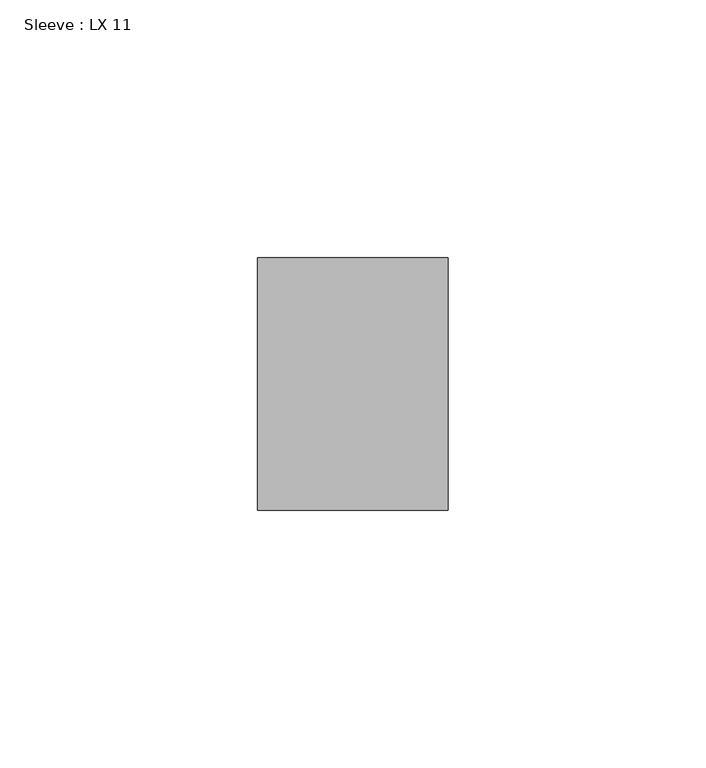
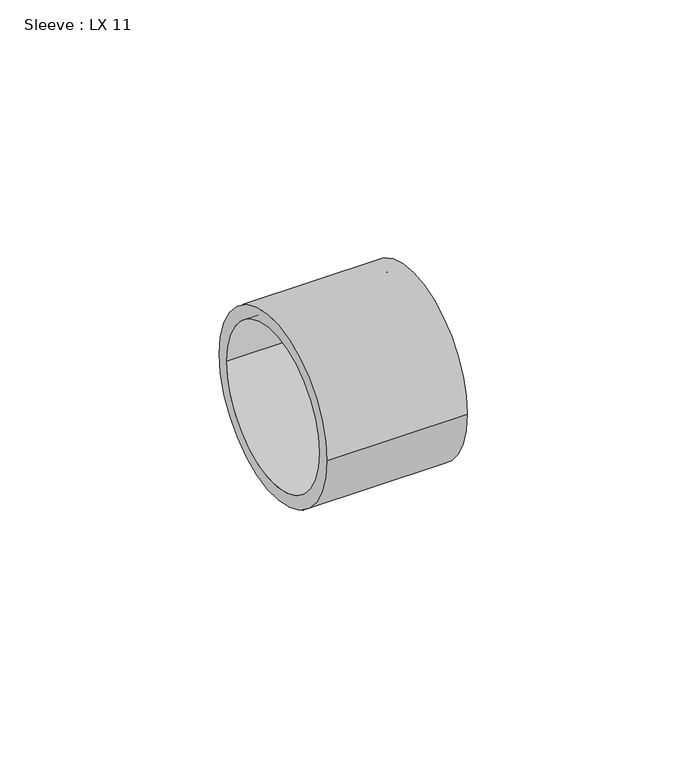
"""IFC4 building model written with IfcOpenShell, lengths in millimetres: pipe fitting geometry, Sleeve : LX 11."""

from ifc_helpers import new_model, si_unit, point, frame, origin, origin_2d, place, context, project, spatial, circle_curve, trimmed, segment, composite_curve, outline, extrude, source, transform, mapped, element, save


def sleeve_lx_11_b9b419b6(model_context):
    return source(origin(), model_context, "Body", "SweptSolid", [
        extrude(outline(composite_curve([segment(trimmed(circle_curve(origin_2d(), 24.5), [point((-24.5, 0.0))], [point((24.5, 0.0))], False, "CARTESIAN"), True, "CONTINUOUS"), segment(trimmed(circle_curve(origin_2d(), 24.5), [point((24.5, 0.0))], [point((-24.5, 0.0))], False, "CARTESIAN"), True, "CONTINUOUS")], self_intersect=False), holes=[composite_curve([segment(trimmed(circle_curve(origin_2d(), 21.05), [point((-21.05, 0.0))], [point((21.05, 0.0))], True, "CARTESIAN"), True, "CONTINUOUS"), segment(trimmed(circle_curve(origin_2d(), 21.05), [point((21.05, 0.0))], [point((-21.05, 0.0))], True, "CARTESIAN"), True, "CONTINUOUS")], self_intersect=False)]), frame((0.0, 0.0, 0.0), z_axis=(1.0, 0.0, 0.0), x_axis=(0.0, 1.0, 0.0)), (0.0, 0.0, 1.0), 37.0),
    ])


if __name__ == "__main__":
    model = new_model("IFC4")
    model_context = context("Model", 3, world=origin())
    ifc_project = project(units=[si_unit("LENGTHUNIT", "METRE", prefix="MILLI")], contexts=[model_context])
    site = spatial("IfcSite", under=ifc_project)
    building = spatial("IfcBuilding", under=site)
    placement = place(None, origin())
    sleeve_lx_11_shape = sleeve_lx_11_b9b419b6(model_context)
    element("IfcPipeFitting", 1, ObjectType="Sleeve : LX 11", at=placement, inside=building, context=model_context, shape_type="MappedRepresentation", body=[
        mapped(sleeve_lx_11_shape, transform((0.0, 0.0, 0.0), x_axis=(1.0, 0.0, 0.0), y_axis=(0.0, 1.0, 0.0), z_axis=(0.0, 0.0, 1.0))),
    ])
    save(model, "model.ifc")
